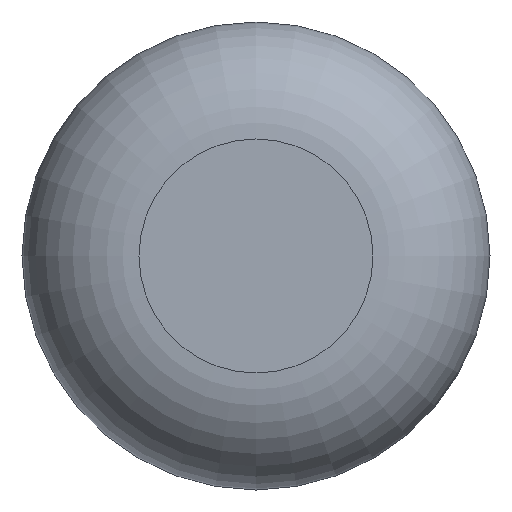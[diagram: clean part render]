
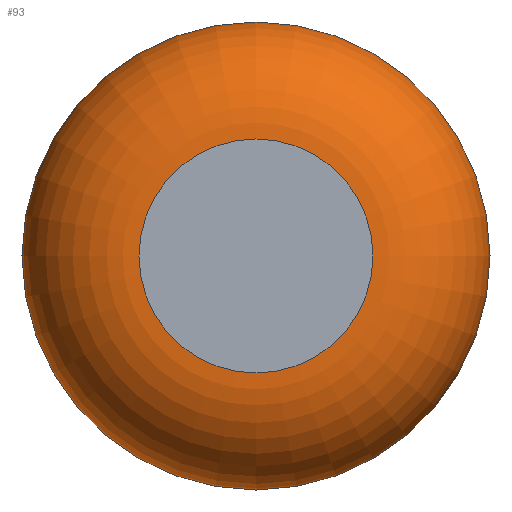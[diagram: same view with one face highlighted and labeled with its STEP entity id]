
A CAD part, left-side view. The second image highlights one B-rep face of the part: STEP entity #93.
In plain terms, the highlighted toroidal (fillet/blend) face has major radius 5 mm and minor radius 5 mm.
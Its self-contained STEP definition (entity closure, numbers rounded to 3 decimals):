
#23=TOROIDAL_SURFACE('',#116,5.,5.);
#27=ORIENTED_EDGE('',*,*,#41,.T.);
#28=ORIENTED_EDGE('',*,*,#40,.F.);
#40=EDGE_CURVE('',#47,#47,#54,.T.);
#41=EDGE_CURVE('',#48,#48,#55,.T.);
#47=VERTEX_POINT('',#165);
#48=VERTEX_POINT('',#168);
#54=CIRCLE('',#115,5.);
#55=CIRCLE('',#117,10.);
#62=EDGE_LOOP('',(#27));
#63=EDGE_LOOP('',(#28));
#76=FACE_BOUND('',#62,.T.);
#77=FACE_BOUND('',#63,.T.);
#93=ADVANCED_FACE('',(#76,#77),#23,.T.);
#115=AXIS2_PLACEMENT_3D('',#164,#135,#136);
#116=AXIS2_PLACEMENT_3D('',#166,#137,#138);
#117=AXIS2_PLACEMENT_3D('',#167,#139,#140);
#135=DIRECTION('',(-1.,0.,0.));
#136=DIRECTION('',(0.,0.,1.));
#137=DIRECTION('',(-1.,0.,0.));
#138=DIRECTION('',(0.,0.,1.));
#139=DIRECTION('',(-1.,0.,0.));
#140=DIRECTION('',(0.,0.,1.));
#164=CARTESIAN_POINT('',(-29.,0.,0.));
#165=CARTESIAN_POINT('',(-29.,0.,5.));
#166=CARTESIAN_POINT('',(-24.,0.,0.));
#167=CARTESIAN_POINT('',(-24.,0.,0.));
#168=CARTESIAN_POINT('',(-24.,0.,10.));
